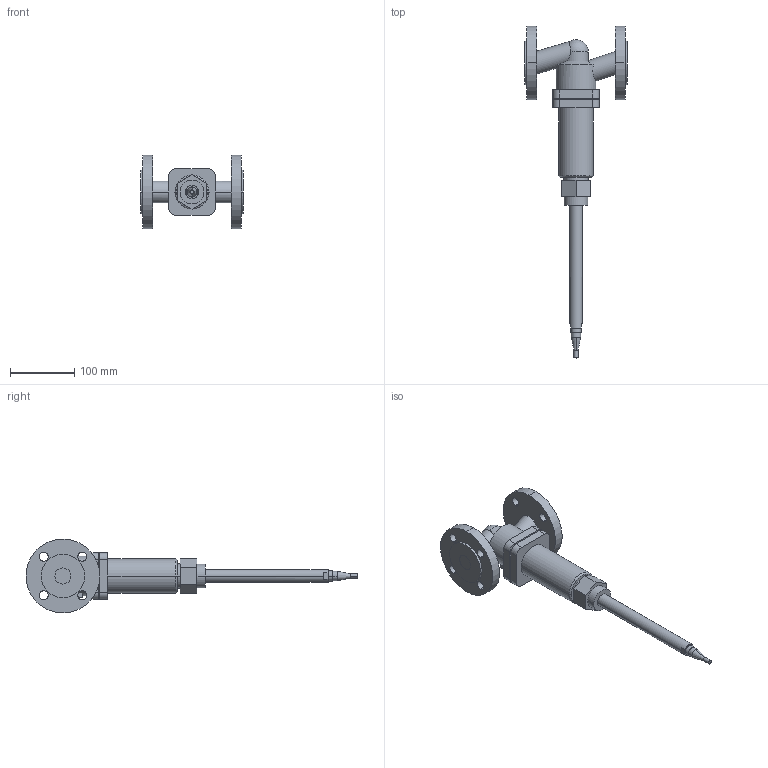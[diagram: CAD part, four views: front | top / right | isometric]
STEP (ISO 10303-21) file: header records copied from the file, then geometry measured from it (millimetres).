
FILE_DESCRIPTION(('CoCreate Modeling STEP Export'),'2;1');
FILE_NAME('c000001232.stp','2011-09-21T 8:38:32',(''),(''),'CoCreate Modeling STEP processor for AP214 (Solid Model)','CoCreate Modeling 17.0 01-Apr-2010 (C) Parametric Technology GmbH','');
FILE_SCHEMA(('AUTOMOTIVE_DESIGN { 1 0 10303 214 1 1 1 1 }'));
Length unit declared in the file: millimetre
Products named in the file (1): 1
Bounding box: 160 x 516.94 x 115 mm (x, y, z)
Volume: 1062461.6 mm3; surface area: 135279.2 mm2
Topology: 1 solids, 1 shells, 120 faces, 295 edges, 194 vertices
Faces by surface type: cylinder 60, plane 52, cone 4, torus 2, sphere 2
Entity records: 5515 total; most frequent: CARTESIAN_POINT 1868, ORIENTED_EDGE 586, DIRECTION 493, EDGE_CURVE 293, VERTEX_POINT 194, AXIS2_PLACEMENT_3D 174, EDGE_LOOP 155, VECTOR 145
